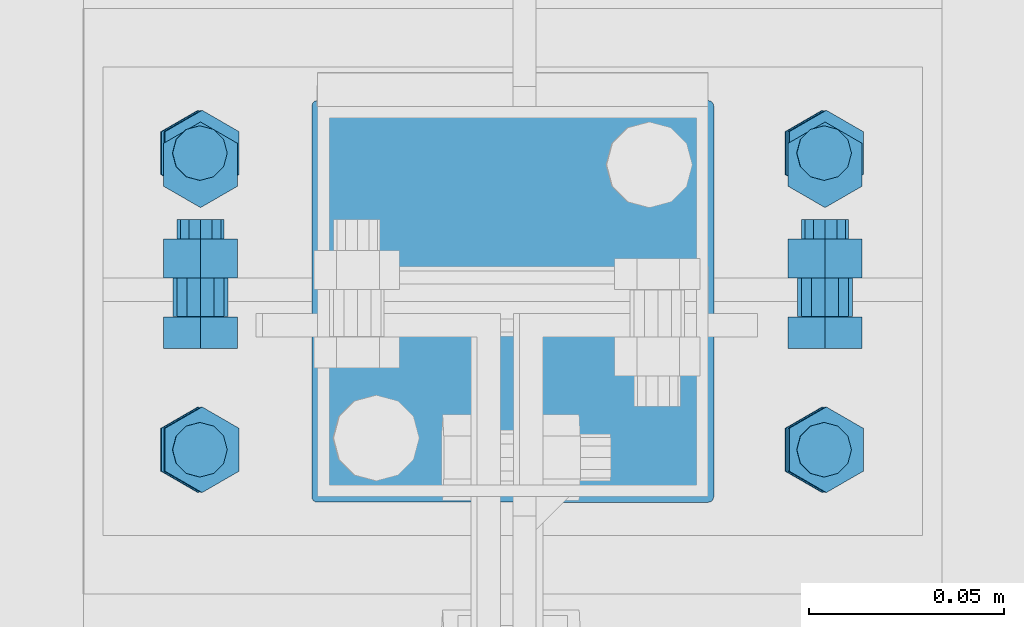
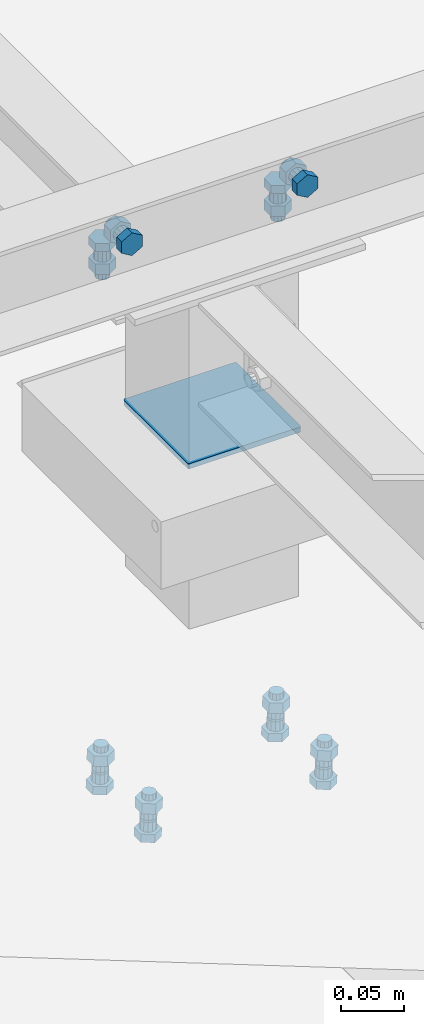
# One storey, part 312 of 3134: 5 mechanical fasteners, 4 elements without a shape of their own.
"""IFC2X3 building model written with IfcOpenShell, lengths in millimetres."""

import ifcopenshell
import ifcopenshell.guid

model = None  # the IFC model being written
_history = None  # IfcOwnerHistory: only IFC2X3 demands one
_inside = {}  # id of a spatial element -> (the spatial element, [elements in it])
_under = {}  # id of a project, library or spatial element -> (it, [spatial elements below it])
_declared = {}  # id of a project -> (the project, [libraries it declares])
_typed = {}  # id of a type object -> (the type object, [elements of that type])
_made_of = {}  # id of a material, layer set ... -> (it, [elements and type objects made of it])


def new_model(schema):
    """Start an empty IFC model of exactly this schema.

    Asked for "IFC4X3", IfcOpenShell would pick the latest addendum, in which some entities
    have other attributes; the version numbers below select the first issue.
    IFC2X3 requires an IfcOwnerHistory on every rooted entity: one is made here for all.
    """
    global model, _history
    if schema == "IFC4X3":
        model = ifcopenshell.file(schema_version=(4, 3, 0, 0))
    else:
        model = ifcopenshell.file(schema=schema)
    _inside.clear()
    _under.clear()
    _declared.clear()
    _typed.clear()
    _made_of.clear()
    _history = None
    if model.schema == "IFC2X3":
        org = make("IfcOrganization", Name="unknown")
        user = make(
            "IfcPersonAndOrganization",
            ThePerson=make("IfcPerson", FamilyName="unknown"),
            TheOrganization=org,
        )
        app = make(
            "IfcApplication",
            ApplicationDeveloper=org,
            Version="unknown",
            ApplicationFullName="unknown",
            ApplicationIdentifier="unknown",
        )
        _history = make(
            "IfcOwnerHistory",
            OwningUser=user,
            OwningApplication=app,
            ChangeAction="ADDED",
            CreationDate=0,
        )
    return model


def make(cls, **values):
    """One entity of the class cls with the attributes given. An attribute that is None is left unset."""
    return model.create_entity(
        cls, **{name: value for name, value in values.items() if value is not None}
    )


def rooted(cls, **values):
    """An entity with a GlobalId (a new one), such as an element, a storey or a relation."""
    return make(cls, GlobalId=ifcopenshell.guid.new(), OwnerHistory=_history, **values)


def si_unit(unit_type, name, prefix=None):
    """IfcSIUnit, for example si_unit("LENGTHUNIT", "METRE", prefix="MILLI")."""
    return make("IfcSIUnit", UnitType=unit_type, Prefix=prefix, Name=name)


def assignment(units):
    """IfcUnitAssignment: the units of a project."""
    return None if units is None else make("IfcUnitAssignment", Units=units)


def point(xyz):
    """IfcCartesianPoint."""
    return None if xyz is None else make("IfcCartesianPoint", Coordinates=xyz)


def direction(xyz):
    """IfcDirection."""
    return None if xyz is None else make("IfcDirection", DirectionRatios=xyz)


def frame(location, z_axis=None, x_axis=None):
    """IfcAxis2Placement3D, a coordinate frame: its origin and axes. An axis left out is left unset."""
    return make(
        "IfcAxis2Placement3D",
        Location=point(location),
        Axis=direction(z_axis),
        RefDirection=direction(x_axis),
    )


def origin_with_axes():
    """The frame at (0, 0, 0) with the z axis (0, 0, 1) and the x axis (1, 0, 0) written out."""
    return frame((0.0, 0.0, 0.0), z_axis=(0.0, 0.0, 1.0), x_axis=(1.0, 0.0, 0.0))


def place(relative_to, where):
    """IfcLocalPlacement: puts the frame where relative to a parent placement (None: the world)."""
    return make(
        "IfcLocalPlacement", PlacementRelTo=relative_to, RelativePlacement=where
    )


def context(
    kind, dimensions, precision=None, world=None, true_north=None, identifier=None
):
    """IfcGeometricRepresentationContext, for example the 3D "Model" context."""
    return make(
        "IfcGeometricRepresentationContext",
        ContextIdentifier=identifier,
        ContextType=kind,
        CoordinateSpaceDimension=dimensions,
        Precision=precision,
        WorldCoordinateSystem=world,
        TrueNorth=true_north,
    )


def subcontext(parent, identifier, kind, view, scale=None):
    """IfcGeometricRepresentationSubContext, for example "Body" below "Model"."""
    return make(
        "IfcGeometricRepresentationSubContext",
        ContextIdentifier=identifier,
        ContextType=kind,
        ParentContext=parent,
        TargetScale=scale,
        TargetView=view,
    )


def project(units=None, contexts=None):
    """IfcProject with its units and contexts."""
    return rooted(
        "IfcProject",
        Name="project",
        RepresentationContexts=contexts,
        UnitsInContext=assignment(units),
    )


def spatial(cls, under=None, at=None, **own):
    """A site, building, storey or space (cls), placed at a placement, below another one or the project."""
    s = rooted(cls, ObjectPlacement=at, **own)
    if under is not None:
        _under.setdefault(under.id(), (under, []))[1].append(s)
    return s


def faces_of(points, faces, orient=None, outer=None):
    """IfcFace entities. A face is a list of loops; a loop is a list of indices into points, from 0.

    orient and outer hold one flag for each loop. By default every Orientation is true, the
    first loop of a face is its IfcFaceOuterBound and the others are IfcFaceBound.
    """
    made = []
    for i, loops in enumerate(faces):
        bounds = []
        for j, loop in enumerate(loops):
            is_outer = j == 0 if outer is None else outer[i][j]
            bounds.append(
                make(
                    "IfcFaceOuterBound" if is_outer else "IfcFaceBound",
                    Bound=make("IfcPolyLoop", Polygon=[points[k] for k in loop]),
                    Orientation=True if orient is None else orient[i][j],
                )
            )
        made.append(make("IfcFace", Bounds=bounds))
    return made


def faceted_brep(points, faces, orient=None, outer=None, voids=None):
    """IfcFacetedBrep: a solid bounded by flat faces; with voids (closed shells), ...WithVoids."""
    shared = [point(p) for p in points]
    hull = make("IfcClosedShell", CfsFaces=faces_of(shared, faces, orient, outer))
    if voids is None:
        return make("IfcFacetedBrep", Outer=hull)
    return make(
        "IfcFacetedBrepWithVoids",
        Outer=hull,
        Voids=[
            make(cls, CfsFaces=faces_of(shared, fs, o, b)) for cls, fs, o, b in voids
        ],
    )


def shape(context_of_items, identifier, shape_type, items):
    """IfcShapeRepresentation: the items that make up one representation, for example the "Body"."""
    return make(
        "IfcShapeRepresentation",
        ContextOfItems=context_of_items,
        RepresentationIdentifier=identifier,
        RepresentationType=shape_type,
        Items=items,
    )


def source(mapping_origin, context_of_items, identifier, shape_type, items):
    """IfcRepresentationMap: a shape defined once, which mapped items show again and again."""
    return make(
        "IfcRepresentationMap",
        MappingOrigin=mapping_origin,
        MappedRepresentation=shape(context_of_items, identifier, shape_type, items),
    )


def transform(
    local_origin,
    x_axis=None,
    y_axis=None,
    z_axis=None,
    scale=None,
    scale2=None,
    scale3=None,
    uniform=True,
):
    """IfcCartesianTransformationOperator3D, or its non-uniform kind. x_axis, y_axis, z_axis: its Axis1, 2, 3."""
    if uniform:
        return make(
            "IfcCartesianTransformationOperator3D",
            Axis1=direction(x_axis),
            Axis2=direction(y_axis),
            LocalOrigin=point(local_origin),
            Scale=scale,
            Axis3=direction(z_axis),
        )
    return make(
        "IfcCartesianTransformationOperator3DnonUniform",
        Axis1=direction(x_axis),
        Axis2=direction(y_axis),
        LocalOrigin=point(local_origin),
        Scale=scale,
        Axis3=direction(z_axis),
        Scale2=scale2,
        Scale3=scale3,
    )


def mapped(mapping_source, mapping_target):
    """IfcMappedItem: shows the shape of a source again, moved by a transform."""
    return make(
        "IfcMappedItem", MappingSource=mapping_source, MappingTarget=mapping_target
    )


def material(Name=None, Category=None):
    """IfcMaterial."""
    return make("IfcMaterial", Name=Name, Category=Category)


def made_of(thing, what):
    """Note that an element or type object is made of a material, layer set ...; save() writes the relation."""
    if what is not None:
        _made_of.setdefault(what.id(), (what, []))[1].append(thing)
    return thing


def type_object(cls, material=None, **own):
    """A type object (cls), such as IfcWallType, which elements share."""
    return made_of(rooted(cls, **own), material)


def element(
    cls,
    number,
    at=None,
    inside=None,
    cuts=None,
    type_object=None,
    material=None,
    context=None,
    identifier="Body",
    shape_type=None,
    held_by="IfcProductDefinitionShape",
    body=None,
    shapes=None,
    **own,
):
    """One element of the class cls, such as IfcWall. Its Tag is "e" and its number.

    at: its placement. inside: the storey or other place that contains it. cuts: it is an
    opening in that element (IfcRelVoidsElement). A single representation is given by context,
    identifier, shape_type and body (its items); several are given by shapes. held_by: the class
    of the entity that holds the representations. save() writes the other relations.
    """
    e = rooted(cls, Tag="e%d" % number, ObjectPlacement=at, **own)
    if body is not None:
        shapes = [shape(context, identifier, shape_type, body)]
    if shapes is not None:
        e.Representation = make(held_by, Representations=shapes)
    if inside is not None:
        _inside.setdefault(inside.id(), (inside, []))[1].append(e)
    if cuts is not None:
        rooted(
            "IfcRelVoidsElement", RelatingBuildingElement=cuts, RelatedOpeningElement=e
        )
    if type_object is not None:
        _typed.setdefault(type_object.id(), (type_object, []))[1].append(e)
    return made_of(e, material)


def aggregate(whole, parts):
    """IfcRelAggregates: a whole, such as a stair, and the parts it consists of."""
    return rooted("IfcRelAggregates", RelatingObject=whole, RelatedObjects=parts)


def save(model, path):
    """Write the relations noted so far, then the file.

    IfcRelAggregates (storeys below a building ...), IfcRelContainedInSpatialStructure (elements
    in a storey), IfcRelDefinesByType, IfcRelAssociatesMaterial and IfcRelDeclares: one each for
    every whole, place, type object, material and project.
    """
    for whole, parts in _under.values():
        aggregate(whole, parts)
    for where, things in _inside.values():
        rooted(
            "IfcRelContainedInSpatialStructure",
            RelatedElements=things,
            RelatingStructure=where,
        )
    for kind, things in _typed.values():
        rooted("IfcRelDefinesByType", RelatedObjects=things, RelatingType=kind)
    for what, things in _made_of.values():
        rooted("IfcRelAssociatesMaterial", RelatedObjects=things, RelatingMaterial=what)
    for by, libraries in _declared.values():
        rooted("IfcRelDeclares", RelatingContext=by, RelatedDefinitions=libraries)
    model.write(path)


model = new_model("IFC2X3")

# Units and contexts
model_context = context("Model", 3, precision=1e-05, world=origin_with_axes())
body_context = subcontext(model_context, "Body", "Model", "MODEL_VIEW")
ifc_project = project(units=[si_unit("LENGTHUNIT", "METRE", prefix="MILLI"), si_unit("AREAUNIT", "SQUARE_METRE"), si_unit("VOLUMEUNIT", "CUBIC_METRE"), si_unit("MASSUNIT", "GRAM", prefix="KILO"), si_unit("TIMEUNIT", "SECOND"), si_unit("PLANEANGLEUNIT", "RADIAN"), si_unit("SOLIDANGLEUNIT", "STERADIAN"), si_unit("THERMODYNAMICTEMPERATUREUNIT", "DEGREE_CELSIUS"), si_unit("LUMINOUSINTENSITYUNIT", "LUMEN")], contexts=[model_context])

# Site, building, storey
site_placement = place(None, origin_with_axes())
site = spatial("IfcSite", under=ifc_project, at=site_placement, CompositionType="ELEMENT")
building_placement = place(site_placement, origin_with_axes())
building = spatial("IfcBuilding", under=site, at=building_placement, Name="Undefined", CompositionType="ELEMENT")
storey_placement = place(building_placement, origin_with_axes())
storey = spatial("IfcBuildingStorey", under=building, at=storey_placement, Name="Undefined", CompositionType="ELEMENT", Elevation=0.0)

# Assembly, mechanical fastener
assembly_1_placement = place(storey_placement, origin_with_axes())
assembly_1 = element("IfcElementAssembly", 1, at=assembly_1_placement, inside=storey, AssemblyPlace="NOTDEFINED", PredefinedType="RIGID_FRAME")
ifc_material_1 = material(Name="8.8")
mechanical_fastener_type = type_object("IfcMechanicalFastenerType", Name="Bolt assembly")
shared_shape_1 = source(origin_with_axes(), body_context, "Body", "Brep", [
    faceted_brep([(10.9696551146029, -14.0, 0.0), (5.48482755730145, -14.0, 9.5), (-5.48482755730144, -14.0, 9.5), (-10.9696551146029, -14.0, 1.34339530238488e-15), (-5.48482755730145, -14.0, -9.5), (5.48482755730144, -14.0, -9.50000000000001), (5.48482755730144, -6.0, -9.50000000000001), (-5.48482755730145, -6.0, -9.5), (-10.9696551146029, -6.0, 1.34339530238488e-15), (-5.48482755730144, -6.0, 9.5), (5.48482755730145, -6.0, 9.5), (10.9696551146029, -6.0, 0.0), (6.0, -6.0, 0.0), (5.19615242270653, -6.0, 3.00000000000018), (2.99999999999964, -6.0, 5.19615242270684), (-6.21801588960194e-13, -6.0, 6.0), (-3.00000000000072, -6.0, 5.19615242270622), (-5.19615242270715, -6.0, 2.9999999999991), (-6.0, -6.0, -1.24360317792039e-12), (-5.19615242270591, -6.0, -3.00000000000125), (-2.99999999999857, -6.0, -5.19615242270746), (1.85874342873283e-12, -6.0, -6.0), (3.00000000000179, -6.0, -5.1961524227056), (5.19615242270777, -6.0, -2.99999999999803), (5.19615242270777, 24.0, -2.99999999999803), (3.00000000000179, 24.0, -5.1961524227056), (1.85874342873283e-12, 24.0, -6.0), (-2.99999999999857, 24.0, -5.19615242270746), (-5.19615242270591, 24.0, -3.00000000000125), (-6.0, 24.0, -1.24360317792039e-12), (-5.19615242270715, 24.0, 2.9999999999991), (-3.00000000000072, 24.0, 5.19615242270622), (-6.21801588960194e-13, 24.0, 6.0), (2.99999999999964, 24.0, 5.19615242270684), (5.19615242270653, 24.0, 3.00000000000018), (6.0, 24.0, 0.0), (10.9696551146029, 6.00000000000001, 0.0), (5.48482755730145, 6.00000000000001, 9.5), (-5.48482755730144, 6.00000000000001, 9.5), (-10.9696551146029, 6.00000000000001, 1.34339530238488e-15), (-5.48482755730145, 6.00000000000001, -9.5), (5.48482755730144, 6.00000000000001, -9.50000000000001), (5.48482755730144, 16.0, -9.50000000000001), (-5.48482755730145, 16.0, -9.5), (-10.9696551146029, 16.0, 1.34339530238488e-15), (-5.48482755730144, 16.0, 9.5), (5.48482755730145, 16.0, 9.5), (10.9696551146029, 16.0, 0.0)], [[[0, 1, 2, 3, 4, 5]], [[6, 7, 8, 9, 10, 11]], [[0, 11, 10, 1]], [[1, 10, 9, 2]], [[2, 9, 8, 3]], [[3, 8, 7, 4]], [[4, 7, 6, 5]], [[5, 6, 11, 0]], [[12, 13, 14, 15, 16, 17, 18, 19, 20, 21, 22, 23]], [[24, 25, 26, 27, 28, 29, 30, 31, 32, 33, 34, 35]], [[12, 35, 34, 13]], [[13, 34, 33, 14]], [[14, 33, 32, 15]], [[15, 32, 31, 16]], [[16, 31, 30, 17]], [[17, 30, 29, 18]], [[18, 29, 28, 19]], [[19, 28, 27, 20]], [[20, 27, 26, 21]], [[21, 26, 25, 22]], [[22, 25, 24, 23]], [[23, 24, 35, 12]], [[36, 37, 38, 39, 40, 41]], [[42, 43, 44, 45, 46, 47]], [[36, 47, 46, 37]], [[37, 46, 45, 38]], [[38, 45, 44, 39]], [[39, 44, 43, 40]], [[40, 43, 42, 41]], [[41, 42, 47, 36]]]),
    faceted_brep([(7.0, -0.1, 0.0), (6.06217782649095, -0.1, 3.50000000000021), (3.49999999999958, -0.1, 6.06217782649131), (-7.25435187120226e-13, -0.1, 7.0), (-3.50000000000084, -0.1, 6.06217782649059), (-6.06217782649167, -0.1, 3.49999999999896), (-7.0, -0.1, -1.45087037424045e-12), (-6.06217782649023, -0.1, -3.50000000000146), (-3.49999999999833, -0.1, -6.06217782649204), (2.1685340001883e-12, -0.1, -7.0), (3.50000000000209, -0.1, -6.06217782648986), (6.0621778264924, -0.1, -3.4999999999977), (6.0621778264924, 6.00000000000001, -3.4999999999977), (3.50000000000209, 6.00000000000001, -6.06217782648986), (2.1685340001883e-12, 6.00000000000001, -7.0), (-3.49999999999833, 6.00000000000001, -6.06217782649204), (-6.06217782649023, 6.00000000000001, -3.50000000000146), (-7.0, 6.00000000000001, -1.45087037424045e-12), (-6.06217782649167, 6.00000000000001, 3.49999999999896), (-3.50000000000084, 6.00000000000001, 6.06217782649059), (-7.25435187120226e-13, 6.00000000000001, 7.0), (3.49999999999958, 6.00000000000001, 6.06217782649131), (6.06217782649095, 6.00000000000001, 3.50000000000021), (7.0, 6.00000000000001, 0.0), (7.0, -5.9, 0.0), (6.06217782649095, -5.9, 3.50000000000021), (3.49999999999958, -5.9, 6.06217782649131), (-7.25435187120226e-13, -5.9, 7.0), (-3.50000000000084, -5.9, 6.06217782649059), (-6.06217782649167, -5.9, 3.49999999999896), (-7.0, -5.9, -1.45087037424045e-12), (-6.06217782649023, -5.9, -3.50000000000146), (-3.49999999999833, -5.9, -6.06217782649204), (2.1685340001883e-12, -5.9, -7.0), (3.50000000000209, -5.9, -6.06217782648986), (6.0621778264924, -5.9, -3.4999999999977), (6.0621778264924, 0.0999999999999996, -3.4999999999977), (3.50000000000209, 0.0999999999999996, -6.06217782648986), (2.1685340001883e-12, 0.0999999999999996, -7.0), (-3.49999999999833, 0.0999999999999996, -6.06217782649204), (-6.06217782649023, 0.0999999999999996, -3.50000000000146), (-7.0, 0.0999999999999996, -1.45087037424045e-12), (-6.06217782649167, 0.0999999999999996, 3.49999999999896), (-3.50000000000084, 0.0999999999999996, 6.06217782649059), (-7.25435187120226e-13, 0.0999999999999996, 7.0), (3.49999999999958, 0.0999999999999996, 6.06217782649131), (6.06217782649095, 0.0999999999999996, 3.50000000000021), (7.0, 0.0999999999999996, 0.0)], [[[0, 1, 2, 3, 4, 5, 6, 7, 8, 9, 10, 11]], [[12, 13, 14, 15, 16, 17, 18, 19, 20, 21, 22, 23]], [[0, 23, 22, 1]], [[1, 22, 21, 2]], [[2, 21, 20, 3]], [[3, 20, 19, 4]], [[4, 19, 18, 5]], [[5, 18, 17, 6]], [[6, 17, 16, 7]], [[7, 16, 15, 8]], [[8, 15, 14, 9]], [[9, 14, 13, 10]], [[10, 13, 12, 11]], [[11, 12, 23, 0]], [[24, 25, 26, 27, 28, 29, 30, 31, 32, 33, 34, 35]], [[36, 37, 38, 39, 40, 41, 42, 43, 44, 45, 46, 47]], [[24, 47, 46, 25]], [[25, 46, 45, 26]], [[26, 45, 44, 27]], [[27, 44, 43, 28]], [[28, 43, 42, 29]], [[29, 42, 41, 30]], [[30, 41, 40, 31]], [[31, 40, 39, 32]], [[32, 39, 38, 33]], [[33, 38, 37, 34]], [[34, 37, 36, 35]], [[35, 36, 47, 24]]]),
])
mechanical_fastener_1_placement = place(assembly_1_placement, frame((70600.0, 2585.0, 5850.0), z_axis=(1.0, 0.0, 0.0), x_axis=(0.0, -1.0, 0.0)))
mechanical_fastener_1 = element("IfcMechanicalFastener", 2, at=mechanical_fastener_1_placement, type_object=mechanical_fastener_type, material=ifc_material_1, Name="Bolt assembly", NominalDiameter=12.0, NominalLength=30.0, context=body_context, shape_type="MappedRepresentation", body=[
    mapped(shared_shape_1, transform((0.0, -5.32963895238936e-10, -79.9999999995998))),
    mapped(shared_shape_1, transform((0.0, 5.3114490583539e-10, 79.9999999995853))),
])

assembly_2_placement = place(storey_placement, origin_with_axes())
assembly_2 = element("IfcElementAssembly", 3, at=assembly_2_placement, inside=storey, AssemblyPlace="NOTDEFINED", PredefinedType="RIGID_FRAME")
shared_shape_2 = source(origin_with_axes(), body_context, "Body", "Brep", [
    faceted_brep([(7.0, 13.0000253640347, 0.0), (6.06217782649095, 13.0000253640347, 3.50000000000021), (3.49999999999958, 13.0000253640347, 6.06217782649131), (-7.25435187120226e-13, 13.0000253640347, 7.0), (-3.50000000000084, 13.0000253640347, 6.06217782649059), (-6.06217782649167, 13.0000253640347, 3.49999999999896), (-7.0, 13.0000253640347, -1.45087037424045e-12), (-6.06217782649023, 13.0000253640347, -3.50000000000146), (-3.49999999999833, 13.0000253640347, -6.06217782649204), (2.1685340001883e-12, 13.0000253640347, -7.0), (3.50000000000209, 13.0000253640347, -6.06217782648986), (6.0621778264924, 13.0000253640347, -3.4999999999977), (6.0621778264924, 15.0999999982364, -3.4999999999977), (3.50000000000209, 15.0999999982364, -6.06217782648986), (2.1685340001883e-12, 15.0999999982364, -7.0), (-3.49999999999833, 15.0999999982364, -6.06217782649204), (-6.06217782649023, 15.0999999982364, -3.50000000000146), (-7.0, 15.0999999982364, -1.45087037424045e-12), (-6.06217782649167, 15.0999999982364, 3.49999999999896), (-3.50000000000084, 15.0999999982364, 6.06217782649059), (-7.25435187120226e-13, 15.0999999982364, 7.0), (3.49999999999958, 15.0999999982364, 6.06217782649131), (6.06217782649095, 15.0999999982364, 3.50000000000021), (7.0, 15.0999999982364, 0.0)], [[[0, 1, 2, 3, 4, 5, 6, 7, 8, 9, 10, 11]], [[12, 13, 14, 15, 16, 17, 18, 19, 20, 21, 22, 23]], [[0, 23, 22, 1]], [[1, 22, 21, 2]], [[2, 21, 20, 3]], [[3, 20, 19, 4]], [[4, 19, 18, 5]], [[5, 18, 17, 6]], [[6, 17, 16, 7]], [[7, 16, 15, 8]], [[8, 15, 14, 9]], [[9, 14, 13, 10]], [[10, 13, 12, 11]], [[11, 12, 23, 0]]]),
])
mechanical_fastener_2_placement = place(assembly_2_placement, frame((70599.3451187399, 2588.0, 5332.4572055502), z_axis=(-0.99951962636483, 0.0, 0.0309922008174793), x_axis=(0.0, -1.0, 0.0)))
mechanical_fastener_2 = element("IfcMechanicalFastener", 4, at=mechanical_fastener_2_placement, type_object=mechanical_fastener_type, material=ifc_material_1, Name="Bolt assembly", NominalDiameter=12.0, NominalLength=2.0, context=body_context, shape_type="MappedRepresentation", body=[
    mapped(shared_shape_2, transform((0.0, -5.32963895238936e-10, -79.9999999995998))),
    mapped(shared_shape_2, transform((76.0, -5.32963895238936e-10, -79.9999999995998))),
    mapped(shared_shape_2, transform((0.0, 5.3114490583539e-10, 79.9999999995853))),
    mapped(shared_shape_2, transform((76.0, 5.3114490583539e-10, 79.9999999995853))),
])
aggregate(assembly_2, [mechanical_fastener_2])

assembly_3_placement = place(storey_placement, origin_with_axes())
assembly_3 = element("IfcElementAssembly", 5, at=assembly_3_placement, inside=storey, AssemblyPlace="NOTDEFINED", PredefinedType="RIGID_FRAME")
ifc_material_2 = material(Name="6.8")
shared_shape_3 = source(origin_with_axes(), body_context, "Body", "Brep", [
    faceted_brep([(51.5, 1.36424205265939e-12, 50.0), (51.3858192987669, 1.36424205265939e-12, 50.5740251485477), (51.0606601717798, 1.36424205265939e-12, 51.0606601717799), (50.5740251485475, 1.36424205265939e-12, 51.385819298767), (-50.0000000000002, 1.36424205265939e-12, 51.5), (-50.7500000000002, 1.36424205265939e-12, 51.2990381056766), (-51.2990381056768, 1.36424205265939e-12, 50.7499999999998), (-51.5, 1.36424205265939e-12, 49.9999999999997), (-51.5, 1.36424205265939e-12, -50.0000000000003), (-51.2990381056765, 1.36424205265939e-12, -50.7500000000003), (-50.7499999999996, 1.36424205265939e-12, -51.2990381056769), (-49.9999999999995, 1.36424205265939e-12, -51.5), (50.0000000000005, 1.36424205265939e-12, -51.5), (50.7500000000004, 1.36424205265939e-12, -51.2990381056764), (51.2990381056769, 1.36424205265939e-12, -50.7499999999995), (51.5, 1.36424205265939e-12, -49.9999999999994), (51.5, 5.10000000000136, -49.9999999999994), (51.2990381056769, 5.10000000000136, -50.7499999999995), (50.7500000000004, 5.10000000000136, -51.2990381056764), (50.0000000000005, 5.10000000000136, -51.5), (-49.9999999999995, 5.10000000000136, -51.5), (-50.7499999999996, 5.10000000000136, -51.2990381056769), (-51.2990381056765, 5.10000000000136, -50.7500000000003), (-51.5, 5.10000000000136, -50.0000000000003), (-51.5, 5.10000000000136, 49.9999999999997), (-51.2990381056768, 5.10000000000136, 50.7499999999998), (-50.7500000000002, 5.10000000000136, 51.2990381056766), (-50.0000000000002, 5.10000000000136, 51.5), (50.5740251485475, 5.10000000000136, 51.385819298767), (51.0606601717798, 5.10000000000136, 51.0606601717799), (51.3858192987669, 5.10000000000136, 50.5740251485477), (51.5, 5.10000000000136, 50.0)], [[[0, 1, 2, 3, 4, 5, 6, 7, 8, 9, 10, 11, 12, 13, 14, 15]], [[16, 17, 18, 19, 20, 21, 22, 23, 24, 25, 26, 27, 28, 29, 30, 31]], [[0, 31, 30, 1]], [[1, 30, 29, 2]], [[2, 29, 28, 3]], [[3, 28, 27, 4]], [[4, 27, 26, 5]], [[5, 26, 25, 6]], [[6, 25, 24, 7]], [[7, 24, 23, 8]], [[8, 23, 22, 9]], [[9, 22, 21, 10]], [[10, 21, 20, 11]], [[11, 20, 19, 12]], [[12, 19, 18, 13]], [[13, 18, 17, 14]], [[14, 17, 16, 15]], [[15, 16, 31, 0]]]),
])
mechanical_fastener_3_placement = place(assembly_3_placement, frame((70600.0, 2550.0, 5687.16), z_axis=(0.0, -1.0, 0.0), x_axis=(-1.0, 0.0, 0.0)))
mechanical_fastener_3 = element("IfcMechanicalFastener", 6, at=mechanical_fastener_3_placement, type_object=mechanical_fastener_type, material=ifc_material_2, Name="Bolt assembly", NominalDiameter=10.0, NominalLength=5.0, context=body_context, shape_type="MappedRepresentation", body=[
    mapped(shared_shape_3, transform((0.0, 0.0, 0.0))),
])
aggregate(assembly_3, [mechanical_fastener_3])

# Mechanical fastener
shared_shape_4 = source(origin_with_axes(), body_context, "Body", "Brep", [
    faceted_brep([(10.9696551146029, -12.0, 0.0), (5.48482755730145, -12.0, 9.5), (-5.48482755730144, -12.0, 9.5), (-10.9696551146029, -12.0, 1.34339530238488e-15), (-5.48482755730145, -12.0, -9.5), (5.48482755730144, -12.0, -9.50000000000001), (5.48482755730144, -4.0, -9.50000000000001), (-5.48482755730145, -4.0, -9.5), (-10.9696551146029, -4.0, 1.34339530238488e-15), (-5.48482755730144, -4.0, 9.5), (5.48482755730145, -4.0, 9.5), (10.9696551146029, -4.0, 0.0), (6.0, -4.0, 0.0), (5.19615242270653, -4.0, 3.00000000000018), (2.99999999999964, -4.0, 5.19615242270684), (-6.21801588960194e-13, -4.0, 6.0), (-3.00000000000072, -4.0, 5.19615242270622), (-5.19615242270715, -4.0, 2.9999999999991), (-6.0, -4.0, -1.24360317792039e-12), (-5.19615242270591, -4.0, -3.00000000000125), (-2.99999999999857, -4.0, -5.19615242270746), (1.85874342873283e-12, -4.0, -6.0), (3.00000000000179, -4.0, -5.1961524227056), (5.19615242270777, -4.0, -2.99999999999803), (5.19615242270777, 21.0, -2.99999999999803), (3.00000000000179, 21.0, -5.1961524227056), (1.85874342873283e-12, 21.0, -6.0), (-2.99999999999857, 21.0, -5.19615242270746), (-5.19615242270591, 21.0, -3.00000000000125), (-6.0, 21.0, -1.24360317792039e-12), (-5.19615242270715, 21.0, 2.9999999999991), (-3.00000000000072, 21.0, 5.19615242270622), (-6.21801588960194e-13, 21.0, 6.0), (2.99999999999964, 21.0, 5.19615242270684), (5.19615242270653, 21.0, 3.00000000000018), (6.0, 21.0, 0.0), (10.9696551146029, 6.00000000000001, 0.0), (5.48482755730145, 6.00000000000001, 9.5), (-5.48482755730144, 6.00000000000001, 9.5), (-10.9696551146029, 6.00000000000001, 1.34339530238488e-15), (-5.48482755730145, 6.00000000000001, -9.5), (5.48482755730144, 6.00000000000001, -9.50000000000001), (5.48482755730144, 16.0, -9.50000000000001), (-5.48482755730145, 16.0, -9.5), (-10.9696551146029, 16.0, 1.34339530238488e-15), (-5.48482755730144, 16.0, 9.5), (5.48482755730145, 16.0, 9.5), (10.9696551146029, 16.0, 0.0)], [[[0, 1, 2, 3, 4, 5]], [[6, 7, 8, 9, 10, 11]], [[0, 11, 10, 1]], [[1, 10, 9, 2]], [[2, 9, 8, 3]], [[3, 8, 7, 4]], [[4, 7, 6, 5]], [[5, 6, 11, 0]], [[12, 13, 14, 15, 16, 17, 18, 19, 20, 21, 22, 23]], [[24, 25, 26, 27, 28, 29, 30, 31, 32, 33, 34, 35]], [[12, 35, 34, 13]], [[13, 34, 33, 14]], [[14, 33, 32, 15]], [[15, 32, 31, 16]], [[16, 31, 30, 17]], [[17, 30, 29, 18]], [[18, 29, 28, 19]], [[19, 28, 27, 20]], [[20, 27, 26, 21]], [[21, 26, 25, 22]], [[22, 25, 24, 23]], [[23, 24, 35, 12]], [[36, 37, 38, 39, 40, 41]], [[42, 43, 44, 45, 46, 47]], [[36, 47, 46, 37]], [[37, 46, 45, 38]], [[38, 45, 44, 39]], [[39, 44, 43, 40]], [[40, 43, 42, 41]], [[41, 42, 47, 36]]]),
    faceted_brep([(7.0, -3.9, 0.0), (6.06217782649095, -3.9, 3.50000000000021), (3.49999999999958, -3.9, 6.06217782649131), (-7.25435187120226e-13, -3.9, 7.0), (-3.50000000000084, -3.9, 6.06217782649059), (-6.06217782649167, -3.9, 3.49999999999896), (-7.0, -3.9, -1.45087037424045e-12), (-6.06217782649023, -3.9, -3.50000000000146), (-3.49999999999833, -3.9, -6.06217782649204), (2.1685340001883e-12, -3.9, -7.0), (3.50000000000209, -3.9, -6.06217782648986), (6.0621778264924, -3.9, -3.4999999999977), (6.0621778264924, 0.0999999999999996, -3.4999999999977), (3.50000000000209, 0.0999999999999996, -6.06217782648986), (2.1685340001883e-12, 0.0999999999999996, -7.0), (-3.49999999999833, 0.0999999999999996, -6.06217782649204), (-6.06217782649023, 0.0999999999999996, -3.50000000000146), (-7.0, 0.0999999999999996, -1.45087037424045e-12), (-6.06217782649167, 0.0999999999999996, 3.49999999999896), (-3.50000000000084, 0.0999999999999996, 6.06217782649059), (-7.25435187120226e-13, 0.0999999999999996, 7.0), (3.49999999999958, 0.0999999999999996, 6.06217782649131), (6.06217782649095, 0.0999999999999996, 3.50000000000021), (7.0, 0.0999999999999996, 0.0), (7.0, -0.1, 0.0), (6.06217782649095, -0.1, 3.50000000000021), (3.49999999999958, -0.1, 6.06217782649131), (-7.25435187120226e-13, -0.1, 7.0), (-3.50000000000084, -0.1, 6.06217782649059), (-6.06217782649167, -0.1, 3.49999999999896), (-7.0, -0.1, -1.45087037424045e-12), (-6.06217782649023, -0.1, -3.50000000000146), (-3.49999999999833, -0.1, -6.06217782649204), (2.1685340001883e-12, -0.1, -7.0), (3.50000000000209, -0.1, -6.06217782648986), (6.0621778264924, -0.1, -3.4999999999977), (6.0621778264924, 6.00000000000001, -3.4999999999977), (3.50000000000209, 6.00000000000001, -6.06217782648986), (2.1685340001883e-12, 6.00000000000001, -7.0), (-3.49999999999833, 6.00000000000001, -6.06217782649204), (-6.06217782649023, 6.00000000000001, -3.50000000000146), (-7.0, 6.00000000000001, -1.45087037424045e-12), (-6.06217782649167, 6.00000000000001, 3.49999999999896), (-3.50000000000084, 6.00000000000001, 6.06217782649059), (-7.25435187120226e-13, 6.00000000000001, 7.0), (3.49999999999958, 6.00000000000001, 6.06217782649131), (6.06217782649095, 6.00000000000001, 3.50000000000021), (7.0, 6.00000000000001, 0.0)], [[[0, 1, 2, 3, 4, 5, 6, 7, 8, 9, 10, 11]], [[12, 13, 14, 15, 16, 17, 18, 19, 20, 21, 22, 23]], [[0, 23, 22, 1]], [[1, 22, 21, 2]], [[2, 21, 20, 3]], [[3, 20, 19, 4]], [[4, 19, 18, 5]], [[5, 18, 17, 6]], [[6, 17, 16, 7]], [[7, 16, 15, 8]], [[8, 15, 14, 9]], [[9, 14, 13, 10]], [[10, 13, 12, 11]], [[11, 12, 23, 0]], [[24, 25, 26, 27, 28, 29, 30, 31, 32, 33, 34, 35]], [[36, 37, 38, 39, 40, 41, 42, 43, 44, 45, 46, 47]], [[24, 47, 46, 25]], [[25, 46, 45, 26]], [[26, 45, 44, 27]], [[27, 44, 43, 28]], [[28, 43, 42, 29]], [[29, 42, 41, 30]], [[30, 41, 40, 31]], [[31, 40, 39, 32]], [[32, 39, 38, 33]], [[33, 38, 37, 34]], [[34, 37, 36, 35]], [[35, 36, 47, 24]]]),
])
mechanical_fastener_4_placement = place(assembly_1_placement, frame((70600.0, 2550.0, 5885.0), z_axis=(1.0, 0.0, 0.0), x_axis=(0.0, 0.0, -1.0)))
mechanical_fastener_4 = element("IfcMechanicalFastener", 7, at=mechanical_fastener_4_placement, type_object=mechanical_fastener_type, material=ifc_material_1, Name="Bolt assembly", NominalDiameter=12.0, NominalLength=25.0, context=body_context, shape_type="MappedRepresentation", body=[
    mapped(shared_shape_4, transform((0.0, -5.32963895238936e-10, -79.9999999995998))),
    mapped(shared_shape_4, transform((0.0, 5.3114490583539e-10, 79.9999999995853))),
])

aggregate(assembly_1, [mechanical_fastener_4, mechanical_fastener_1])

# Assembly, mechanical fastener
assembly_4_placement = place(storey_placement, origin_with_axes())
assembly_4 = element("IfcElementAssembly", 8, at=assembly_4_placement, inside=storey, Name="300", AssemblyPlace="NOTDEFINED", PredefinedType="RIGID_FRAME")
shared_shape_5 = source(origin_with_axes(), body_context, "Body", "Brep", [
    faceted_brep([(10.9696551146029, -10.1955642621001, 0.0), (5.48482755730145, -10.1955642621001, 9.5), (-5.48482755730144, -10.1955642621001, 9.5), (-10.9696551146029, -10.1955642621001, 1.34339530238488e-15), (-5.48482755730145, -10.1955642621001, -9.5), (5.48482755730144, -10.1955642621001, -9.50000000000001), (5.48482755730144, -2.19556426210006, -9.50000000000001), (-5.48482755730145, -2.19556426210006, -9.5), (-10.9696551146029, -2.19556426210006, 1.34339530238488e-15), (-5.48482755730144, -2.19556426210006, 9.5), (5.48482755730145, -2.19556426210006, 9.5), (10.9696551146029, -2.19556426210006, 0.0), (6.0, -2.19556426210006, 0.0), (5.19615242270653, -2.19556426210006, 3.00000000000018), (2.99999999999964, -2.19556426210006, 5.19615242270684), (-6.21801588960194e-13, -2.19556426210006, 6.0), (-3.00000000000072, -2.19556426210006, 5.19615242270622), (-5.19615242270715, -2.19556426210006, 2.9999999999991), (-6.0, -2.19556426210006, -1.24360317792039e-12), (-5.19615242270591, -2.19556426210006, -3.00000000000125), (-2.99999999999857, -2.19556426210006, -5.19615242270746), (1.85874342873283e-12, -2.19556426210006, -6.0), (3.00000000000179, -2.19556426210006, -5.1961524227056), (5.19615242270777, -2.19556426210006, -2.99999999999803), (5.19615242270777, 32.8044357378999, -2.99999999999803), (3.00000000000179, 32.8044357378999, -5.1961524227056), (1.85874342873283e-12, 32.8044357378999, -6.0), (-2.99999999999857, 32.8044357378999, -5.19615242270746), (-5.19615242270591, 32.8044357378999, -3.00000000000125), (-6.0, 32.8044357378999, -1.24360317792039e-12), (-5.19615242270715, 32.8044357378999, 2.9999999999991), (-3.00000000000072, 32.8044357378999, 5.19615242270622), (-6.21801588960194e-13, 32.8044357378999, 6.0), (2.99999999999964, 32.8044357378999, 5.19615242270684), (5.19615242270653, 32.8044357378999, 3.00000000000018), (6.0, 32.8044357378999, 0.0), (10.9696551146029, 17.0008987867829, 0.0), (5.48482755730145, 17.0008987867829, 9.5), (-5.48482755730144, 17.0008987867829, 9.5), (-10.9696551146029, 17.0008987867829, 1.34339530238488e-15), (-5.48482755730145, 17.0008987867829, -9.5), (5.48482755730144, 17.0008987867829, -9.50000000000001), (5.48482755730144, 27.0008987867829, -9.50000000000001), (-5.48482755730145, 27.0008987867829, -9.5), (-10.9696551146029, 27.0008987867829, 1.34339530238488e-15), (-5.48482755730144, 27.0008987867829, 9.5), (5.48482755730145, 27.0008987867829, 9.5), (10.9696551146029, 27.0008987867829, 0.0)], [[[0, 1, 2, 3, 4, 5]], [[6, 7, 8, 9, 10, 11]], [[0, 11, 10, 1]], [[1, 10, 9, 2]], [[2, 9, 8, 3]], [[3, 8, 7, 4]], [[4, 7, 6, 5]], [[5, 6, 11, 0]], [[12, 13, 14, 15, 16, 17, 18, 19, 20, 21, 22, 23]], [[24, 25, 26, 27, 28, 29, 30, 31, 32, 33, 34, 35]], [[12, 35, 34, 13]], [[13, 34, 33, 14]], [[14, 33, 32, 15]], [[15, 32, 31, 16]], [[16, 31, 30, 17]], [[17, 30, 29, 18]], [[18, 29, 28, 19]], [[19, 28, 27, 20]], [[20, 27, 26, 21]], [[21, 26, 25, 22]], [[22, 25, 24, 23]], [[23, 24, 35, 12]], [[36, 37, 38, 39, 40, 41]], [[42, 43, 44, 45, 46, 47]], [[36, 47, 46, 37]], [[37, 46, 45, 38]], [[38, 45, 44, 39]], [[39, 44, 43, 40]], [[40, 43, 42, 41]], [[41, 42, 47, 36]]]),
    faceted_brep([(7.0, 8.90089878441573, 0.0), (6.06217782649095, 8.90089878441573, 3.50000000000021), (3.49999999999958, 8.90089878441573, 6.06217782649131), (-7.25435187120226e-13, 8.90089878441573, 7.0), (-3.50000000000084, 8.90089878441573, 6.06217782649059), (-6.06217782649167, 8.90089878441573, 3.49999999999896), (-7.0, 8.90089878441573, -1.45087037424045e-12), (-6.06217782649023, 8.90089878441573, -3.50000000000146), (-3.49999999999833, 8.90089878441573, -6.06217782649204), (2.1685340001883e-12, 8.90089878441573, -7.0), (3.50000000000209, 8.90089878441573, -6.06217782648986), (6.0621778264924, 8.90089878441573, -3.4999999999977), (6.0621778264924, 17.0008987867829, -3.4999999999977), (3.50000000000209, 17.0008987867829, -6.06217782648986), (2.1685340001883e-12, 17.0008987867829, -7.0), (-3.49999999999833, 17.0008987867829, -6.06217782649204), (-6.06217782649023, 17.0008987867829, -3.50000000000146), (-7.0, 17.0008987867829, -1.45087037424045e-12), (-6.06217782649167, 17.0008987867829, 3.49999999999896), (-3.50000000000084, 17.0008987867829, 6.06217782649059), (-7.25435187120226e-13, 17.0008987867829, 7.0), (3.49999999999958, 17.0008987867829, 6.06217782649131), (6.06217782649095, 17.0008987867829, 3.50000000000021), (7.0, 17.0008987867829, 0.0), (7.0, -2.09556426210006, 0.0), (6.06217782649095, -2.09556426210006, 3.50000000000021), (3.49999999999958, -2.09556426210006, 6.06217782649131), (-7.25435187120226e-13, -2.09556426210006, 7.0), (-3.50000000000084, -2.09556426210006, 6.06217782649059), (-6.06217782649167, -2.09556426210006, 3.49999999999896), (-7.0, -2.09556426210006, -1.45087037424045e-12), (-6.06217782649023, -2.09556426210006, -3.50000000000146), (-3.49999999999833, -2.09556426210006, -6.06217782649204), (2.1685340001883e-12, -2.09556426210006, -7.0), (3.50000000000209, -2.09556426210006, -6.06217782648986), (6.0621778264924, -2.09556426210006, -3.4999999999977), (6.0621778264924, 7.10443554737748, -3.4999999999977), (3.50000000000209, 7.10443554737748, -6.06217782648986), (2.1685340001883e-12, 7.10443554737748, -7.0), (-3.49999999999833, 7.10443554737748, -6.06217782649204), (-6.06217782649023, 7.10443554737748, -3.50000000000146), (-7.0, 7.10443554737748, -1.45087037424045e-12), (-6.06217782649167, 7.10443554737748, 3.49999999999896), (-3.50000000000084, 7.10443554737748, 6.06217782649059), (-7.25435187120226e-13, 7.10443554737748, 7.0), (3.49999999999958, 7.10443554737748, 6.06217782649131), (6.06217782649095, 7.10443554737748, 3.50000000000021), (7.0, 7.10443554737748, 0.0)], [[[0, 1, 2, 3, 4, 5, 6, 7, 8, 9, 10, 11]], [[12, 13, 14, 15, 16, 17, 18, 19, 20, 21, 22, 23]], [[0, 23, 22, 1]], [[1, 22, 21, 2]], [[2, 21, 20, 3]], [[3, 20, 19, 4]], [[4, 19, 18, 5]], [[5, 18, 17, 6]], [[6, 17, 16, 7]], [[7, 16, 15, 8]], [[8, 15, 14, 9]], [[9, 14, 13, 10]], [[10, 13, 12, 11]], [[11, 12, 23, 0]], [[24, 25, 26, 27, 28, 29, 30, 31, 32, 33, 34, 35]], [[36, 37, 38, 39, 40, 41, 42, 43, 44, 45, 46, 47]], [[24, 47, 46, 25]], [[25, 46, 45, 26]], [[26, 45, 44, 27]], [[27, 44, 43, 28]], [[28, 43, 42, 29]], [[29, 42, 41, 30]], [[30, 41, 40, 31]], [[31, 40, 39, 32]], [[32, 39, 38, 33]], [[33, 38, 37, 34]], [[34, 37, 36, 35]], [[35, 36, 47, 24]]]),
])
mechanical_fastener_5_placement = place(assembly_4_placement, frame((70599.5351187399, 2588.0, 5338.4572055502), z_axis=(-0.99951962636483, 0.0, 0.0309922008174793), x_axis=(0.0, -1.0, 0.0)))
mechanical_fastener_5 = element("IfcMechanicalFastener", 9, at=mechanical_fastener_5_placement, type_object=mechanical_fastener_type, material=ifc_material_1, Name="Bolt assembly", NominalDiameter=12.0, NominalLength=35.0, context=body_context, shape_type="MappedRepresentation", body=[
    mapped(shared_shape_5, transform((0.0, -5.32963895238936e-10, -79.9999999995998))),
    mapped(shared_shape_5, transform((76.0, -5.32963895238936e-10, -79.9999999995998))),
    mapped(shared_shape_5, transform((0.0, 5.3114490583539e-10, 79.9999999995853))),
    mapped(shared_shape_5, transform((76.0, 5.3114490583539e-10, 79.9999999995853))),
])
aggregate(assembly_4, [mechanical_fastener_5])

save(model, "model.ifc")
